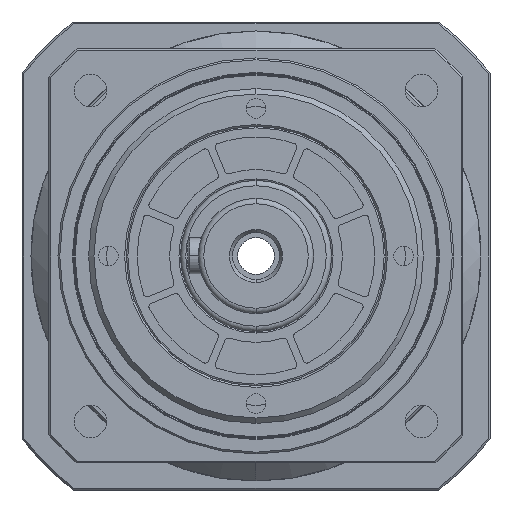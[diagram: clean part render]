
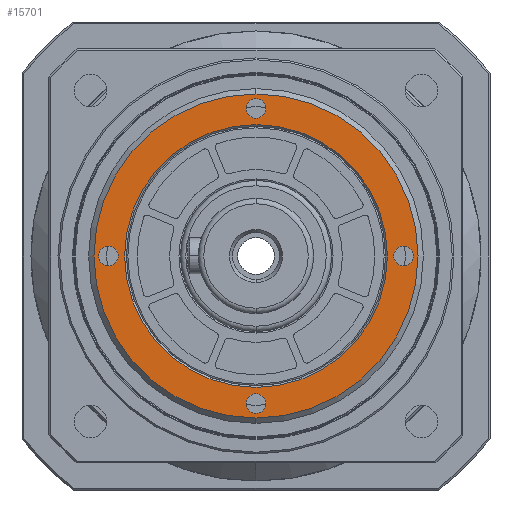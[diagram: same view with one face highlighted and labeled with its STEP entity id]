
A CAD part, left-side view. The second image highlights one B-rep face of the part: STEP entity #15701.
In plain terms, the highlighted planar face has unit normal (-1, 0, 0).
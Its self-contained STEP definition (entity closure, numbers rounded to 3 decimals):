
#693 = CARTESIAN_POINT ( 'NONE',  ( 148.5, 0., 0. ) ) ;
#711 = DIRECTION ( 'NONE',  ( 1., 0., 0. ) ) ;
#720 = DIRECTION ( 'NONE',  ( 0., 0., -1. ) ) ;
#845 = DIRECTION ( 'NONE',  ( -1., 0., 0. ) ) ;
#861 = CARTESIAN_POINT ( 'NONE',  ( 148.5, 41., 0. ) ) ;
#866 = DIRECTION ( 'NONE',  ( 0., 0., 1. ) ) ;
#1297 = CIRCLE ( 'NONE', #15013, 36.5 ) ;
#1320 = CIRCLE ( 'NONE', #15017, 2.75 ) ;
#1626 = FACE_BOUND ( 'NONE', #12203, .T. ) ;
#1627 = FACE_BOUND ( 'NONE', #12095, .T. ) ;
#1643 = FACE_BOUND ( 'NONE', #12252, .T. ) ;
#1704 = FACE_OUTER_BOUND ( 'NONE', #12278, .T. ) ;
#1728 = FACE_BOUND ( 'NONE', #12089, .T. ) ;
#1729 = FACE_BOUND ( 'NONE', #12206, .T. ) ;
#2066 = CARTESIAN_POINT ( 'NONE',  ( 148.5, 41., -2.75 ) ) ;
#2097 = CARTESIAN_POINT ( 'NONE',  ( 148.5, 0., -43.75 ) ) ;
#4585 = ORIENTED_EDGE ( 'NONE', *, *, #13482, .F. ) ;
#4586 = ORIENTED_EDGE ( 'NONE', *, *, #13451, .T. ) ;
#4590 = ORIENTED_EDGE ( 'NONE', *, *, #13481, .F. ) ;
#4591 = ORIENTED_EDGE ( 'NONE', *, *, #13477, .F. ) ;
#4603 = ORIENTED_EDGE ( 'NONE', *, *, #13470, .T. ) ;
#4606 = ORIENTED_EDGE ( 'NONE', *, *, #13455, .F. ) ;
#4611 = ORIENTED_EDGE ( 'NONE', *, *, #13499, .T. ) ;
#4613 = ORIENTED_EDGE ( 'NONE', *, *, #13473, .F. ) ;
#4615 = ORIENTED_EDGE ( 'NONE', *, *, #13543, .T. ) ;
#4625 = ORIENTED_EDGE ( 'NONE', *, *, #13533, .F. ) ;
#4626 = ORIENTED_EDGE ( 'NONE', *, *, #13480, .F. ) ;
#4628 = ORIENTED_EDGE ( 'NONE', *, *, #13461, .F. ) ;
#4948 = PLANE ( 'NONE',  #14829 ) ;
#4949 = CARTESIAN_POINT ( 'NONE',  ( 148.5, 36., 0. ) ) ;
#5026 = DIRECTION ( 'NONE',  ( 0., 0., -1. ) ) ;
#5029 = DIRECTION ( 'NONE',  ( 1., 0., 0. ) ) ;
#6616 = CARTESIAN_POINT ( 'NONE',  ( 148.5, 0., 36.5 ) ) ;
#6646 = CARTESIAN_POINT ( 'NONE',  ( 148.5, -41., -2.75 ) ) ;
#6661 = CARTESIAN_POINT ( 'NONE',  ( 148.5, -41., 2.75 ) ) ;
#6733 = CARTESIAN_POINT ( 'NONE',  ( 148.5, 0., -45. ) ) ;
#6819 = CARTESIAN_POINT ( 'NONE',  ( 148.5, 0., -38.25 ) ) ;
#6835 = CARTESIAN_POINT ( 'NONE',  ( 148.5, 0., 45. ) ) ;
#6967 = CARTESIAN_POINT ( 'NONE',  ( 148.5, 0., 43.75 ) ) ;
#7050 = CARTESIAN_POINT ( 'NONE',  ( 148.5, 0., -36.5 ) ) ;
#7092 = CARTESIAN_POINT ( 'NONE',  ( 148.5, 0., 38.25 ) ) ;
#7145 = CARTESIAN_POINT ( 'NONE',  ( 148.5, 41., 2.75 ) ) ;
#7751 = CIRCLE ( 'NONE', #15070, 45. ) ;
#7756 = CIRCLE ( 'NONE', #15066, 2.75 ) ;
#7758 = CIRCLE ( 'NONE', #15062, 2.75 ) ;
#7792 = CIRCLE ( 'NONE', #15051, 2.75 ) ;
#7800 = CIRCLE ( 'NONE', #15036, 36.5 ) ;
#7815 = CIRCLE ( 'NONE', #15057, 45. ) ;
#7817 = CIRCLE ( 'NONE', #15056, 2.75 ) ;
#7829 = CIRCLE ( 'NONE', #15055, 2.75 ) ;
#7833 = CIRCLE ( 'NONE', #15053, 2.75 ) ;
#7838 = CIRCLE ( 'NONE', #15052, 2.75 ) ;
#8051 = VERTEX_POINT ( 'NONE', #6616 ) ;
#8117 = VERTEX_POINT ( 'NONE', #6646 ) ;
#8138 = VERTEX_POINT ( 'NONE', #6661 ) ;
#8174 = VERTEX_POINT ( 'NONE', #6733 ) ;
#8216 = VERTEX_POINT ( 'NONE', #6819 ) ;
#8222 = VERTEX_POINT ( 'NONE', #6835 ) ;
#8286 = VERTEX_POINT ( 'NONE', #6967 ) ;
#8299 = VERTEX_POINT ( 'NONE', #7050 ) ;
#8334 = VERTEX_POINT ( 'NONE', #7092 ) ;
#8357 = VERTEX_POINT ( 'NONE', #7145 ) ;
#8547 = VERTEX_POINT ( 'NONE', #2097 ) ;
#8572 = VERTEX_POINT ( 'NONE', #2066 ) ;
#12089 = EDGE_LOOP ( 'NONE', ( #4591, #4606 ) ) ;
#12095 = EDGE_LOOP ( 'NONE', ( #4585, #4613 ) ) ;
#12203 = EDGE_LOOP ( 'NONE', ( #4615, #4611 ) ) ;
#12206 = EDGE_LOOP ( 'NONE', ( #4626, #4628 ) ) ;
#12252 = EDGE_LOOP ( 'NONE', ( #4590, #4625 ) ) ;
#12278 = EDGE_LOOP ( 'NONE', ( #4586, #4603 ) ) ;
#12920 = CARTESIAN_POINT ( 'NONE',  ( 148.5, -41., 0. ) ) ;
#12922 = DIRECTION ( 'NONE',  ( -1., 0., 0. ) ) ;
#12923 = DIRECTION ( 'NONE',  ( 0., 0., 1. ) ) ;
#13181 = DIRECTION ( 'NONE',  ( 0., 0., -1. ) ) ;
#13183 = DIRECTION ( 'NONE',  ( -1., 0., 0. ) ) ;
#13186 = CARTESIAN_POINT ( 'NONE',  ( 148.5, 0., 0. ) ) ;
#13451 = EDGE_CURVE ( 'NONE', #8174, #8222, #7751, .T. ) ;
#13455 = EDGE_CURVE ( 'NONE', #8117, #8138, #7756, .T. ) ;
#13461 = EDGE_CURVE ( 'NONE', #8334, #8286, #7758, .T. ) ;
#13470 = EDGE_CURVE ( 'NONE', #8222, #8174, #7815, .T. ) ;
#13473 = EDGE_CURVE ( 'NONE', #8547, #8216, #7817, .T. ) ;
#13477 = EDGE_CURVE ( 'NONE', #8138, #8117, #7829, .T. ) ;
#13480 = EDGE_CURVE ( 'NONE', #8286, #8334, #7833, .T. ) ;
#13481 = EDGE_CURVE ( 'NONE', #8357, #8572, #7838, .T. ) ;
#13482 = EDGE_CURVE ( 'NONE', #8216, #8547, #7792, .T. ) ;
#13499 = EDGE_CURVE ( 'NONE', #8299, #8051, #7800, .T. ) ;
#13533 = EDGE_CURVE ( 'NONE', #8572, #8357, #1320, .T. ) ;
#13543 = EDGE_CURVE ( 'NONE', #8051, #8299, #1297, .T. ) ;
#14829 = AXIS2_PLACEMENT_3D ( 'NONE', #4949, #5029, #5026 ) ;
#15013 = AXIS2_PLACEMENT_3D ( 'NONE', #693, #711, #720 ) ;
#15017 = AXIS2_PLACEMENT_3D ( 'NONE', #861, #845, #866 ) ;
#15036 = AXIS2_PLACEMENT_3D ( 'NONE', #16678, #16677, #16676 ) ;
#15051 = AXIS2_PLACEMENT_3D ( 'NONE', #16602, #16601, #16600 ) ;
#15052 = AXIS2_PLACEMENT_3D ( 'NONE', #16606, #16605, #16604 ) ;
#15053 = AXIS2_PLACEMENT_3D ( 'NONE', #16611, #16610, #16608 ) ;
#15055 = AXIS2_PLACEMENT_3D ( 'NONE', #16621, #16620, #16619 ) ;
#15056 = AXIS2_PLACEMENT_3D ( 'NONE', #16587, #16586, #16585 ) ;
#15057 = AXIS2_PLACEMENT_3D ( 'NONE', #16574, #16581, #16580 ) ;
#15062 = AXIS2_PLACEMENT_3D ( 'NONE', #16645, #16639, #16633 ) ;
#15066 = AXIS2_PLACEMENT_3D ( 'NONE', #12920, #12922, #12923 ) ;
#15070 = AXIS2_PLACEMENT_3D ( 'NONE', #13186, #13183, #13181 ) ;
#15701 = ADVANCED_FACE ( 'NONE', ( #1643, #1729, #1728, #1627, #1626, #1704 ), #4948, .F. ) ;
#16574 = CARTESIAN_POINT ( 'NONE',  ( 148.5, 0., 0. ) ) ;
#16580 = DIRECTION ( 'NONE',  ( 0., 0., -1. ) ) ;
#16581 = DIRECTION ( 'NONE',  ( -1., 0., 0. ) ) ;
#16585 = DIRECTION ( 'NONE',  ( 0., 0., 1. ) ) ;
#16586 = DIRECTION ( 'NONE',  ( -1., 0., 0. ) ) ;
#16587 = CARTESIAN_POINT ( 'NONE',  ( 148.5, 0., -41. ) ) ;
#16600 = DIRECTION ( 'NONE',  ( 0., 0., 1. ) ) ;
#16601 = DIRECTION ( 'NONE',  ( -1., 0., 0. ) ) ;
#16602 = CARTESIAN_POINT ( 'NONE',  ( 148.5, 0., -41. ) ) ;
#16604 = DIRECTION ( 'NONE',  ( 0., 0., 1. ) ) ;
#16605 = DIRECTION ( 'NONE',  ( -1., 0., 0. ) ) ;
#16606 = CARTESIAN_POINT ( 'NONE',  ( 148.5, 41., 0. ) ) ;
#16608 = DIRECTION ( 'NONE',  ( 0., 0., 1. ) ) ;
#16610 = DIRECTION ( 'NONE',  ( -1., 0., 0. ) ) ;
#16611 = CARTESIAN_POINT ( 'NONE',  ( 148.5, 0., 41. ) ) ;
#16619 = DIRECTION ( 'NONE',  ( 0., 0., 1. ) ) ;
#16620 = DIRECTION ( 'NONE',  ( -1., 0., 0. ) ) ;
#16621 = CARTESIAN_POINT ( 'NONE',  ( 148.5, -41., 0. ) ) ;
#16633 = DIRECTION ( 'NONE',  ( 0., 0., 1. ) ) ;
#16639 = DIRECTION ( 'NONE',  ( -1., 0., 0. ) ) ;
#16645 = CARTESIAN_POINT ( 'NONE',  ( 148.5, 0., 41. ) ) ;
#16676 = DIRECTION ( 'NONE',  ( 0., 0., -1. ) ) ;
#16677 = DIRECTION ( 'NONE',  ( 1., 0., 0. ) ) ;
#16678 = CARTESIAN_POINT ( 'NONE',  ( 148.5, 0., 0. ) ) ;
